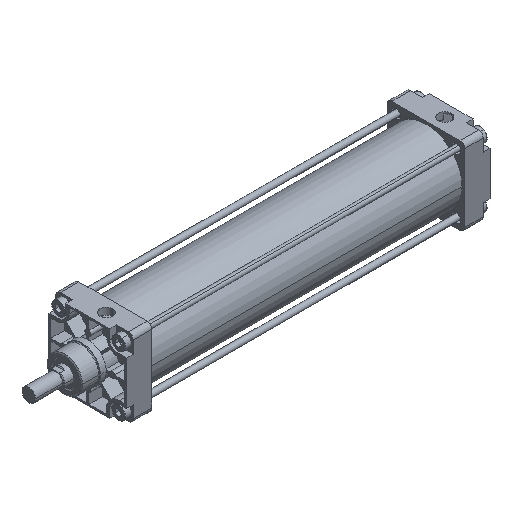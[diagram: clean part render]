
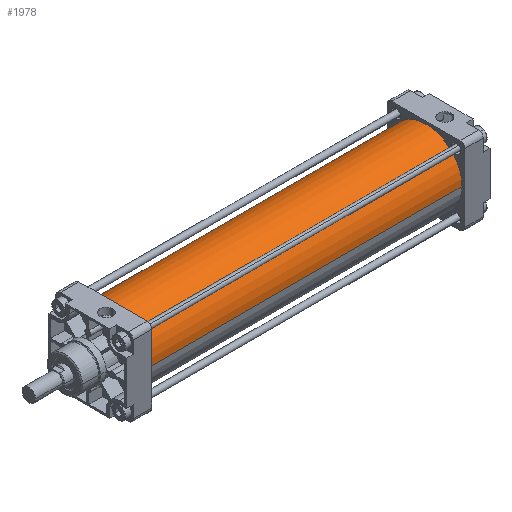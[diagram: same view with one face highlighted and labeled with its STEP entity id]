
A CAD part, isometric view. The second image highlights one B-rep face of the part: STEP entity #1978.
In plain terms, the highlighted cylindrical face has radius 53.5 mm (diameter 107 mm), a partial arc.
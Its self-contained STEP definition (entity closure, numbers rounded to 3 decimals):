
#1682=CARTESIAN_POINT('Axis2P3D Location',(0.,0.,0.)) ;
#1686=CARTESIAN_POINT('Vertex',(0.,53.5,0.)) ;
#1688=CARTESIAN_POINT('Vertex',(0.,-53.5,0.)) ;
#1948=CARTESIAN_POINT('Axis2P3D Location',(232.,0.,0.)) ;
#1953=CARTESIAN_POINT('Line Origine',(232.,53.5,0.)) ;
#1957=CARTESIAN_POINT('Vertex',(464.,53.5,0.)) ;
#1960=CARTESIAN_POINT('Line Origine',(232.,-53.5,0.)) ;
#1964=CARTESIAN_POINT('Vertex',(464.,-53.5,0.)) ;
#1967=CARTESIAN_POINT('Axis2P3D Location',(464.,0.,0.)) ;
#1683=DIRECTION('Axis2P3D Direction',(1.,0.,0.)) ;
#1949=DIRECTION('Axis2P3D Direction',(1.,0.,0.)) ;
#1950=DIRECTION('Axis2P3D XDirection',(0.,1.,0.)) ;
#1954=DIRECTION('Vector Direction',(1.,0.,0.)) ;
#1961=DIRECTION('Vector Direction',(1.,0.,0.)) ;
#1968=DIRECTION('Axis2P3D Direction',(1.,0.,0.)) ;
#1684=AXIS2_PLACEMENT_3D('Circle Axis2P3D',#1682,#1683,$) ;
#1951=AXIS2_PLACEMENT_3D('Cylinder Axis2P3D',#1948,#1949,#1950) ;
#1969=AXIS2_PLACEMENT_3D('Circle Axis2P3D',#1967,#1968,$) ;
#1973=ORIENTED_EDGE('',*,*,#1959,.F.) ;
#1974=ORIENTED_EDGE('',*,*,#1690,.T.) ;
#1975=ORIENTED_EDGE('',*,*,#1966,.T.) ;
#1976=ORIENTED_EDGE('',*,*,#1971,.F.) ;
#1955=VECTOR('Line Direction',#1954,1.) ;
#1962=VECTOR('Line Direction',#1961,1.) ;
#1978=ADVANCED_FACE('PartBody',(#1977),#1952,.T.) ;
#1685=CIRCLE('generated circle',#1684,53.5) ;
#1970=CIRCLE('generated circle',#1969,53.5) ;
#1952=CYLINDRICAL_SURFACE('generated cylinder',#1951,53.5) ;
#1690=EDGE_CURVE('',#1687,#1689,#1685,.T.) ;
#1959=EDGE_CURVE('',#1687,#1958,#1956,.T.) ;
#1966=EDGE_CURVE('',#1689,#1965,#1963,.T.) ;
#1971=EDGE_CURVE('',#1958,#1965,#1970,.T.) ;
#1972=EDGE_LOOP('',(#1973,#1974,#1975,#1976)) ;
#1977=FACE_OUTER_BOUND('',#1972,.T.) ;
#1956=LINE('Line',#1953,#1955) ;
#1963=LINE('Line',#1960,#1962) ;
#1687=VERTEX_POINT('',#1686) ;
#1689=VERTEX_POINT('',#1688) ;
#1958=VERTEX_POINT('',#1957) ;
#1965=VERTEX_POINT('',#1964) ;
